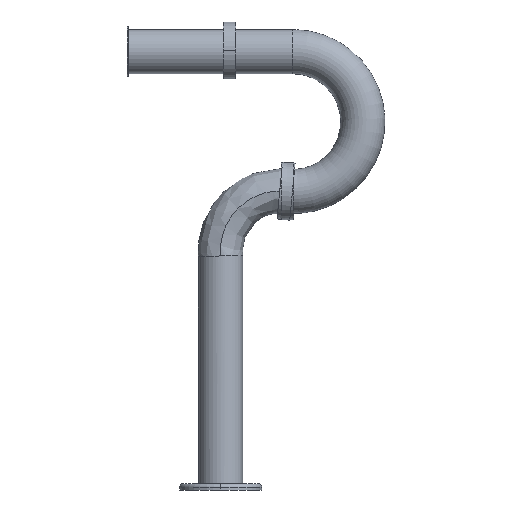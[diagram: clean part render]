
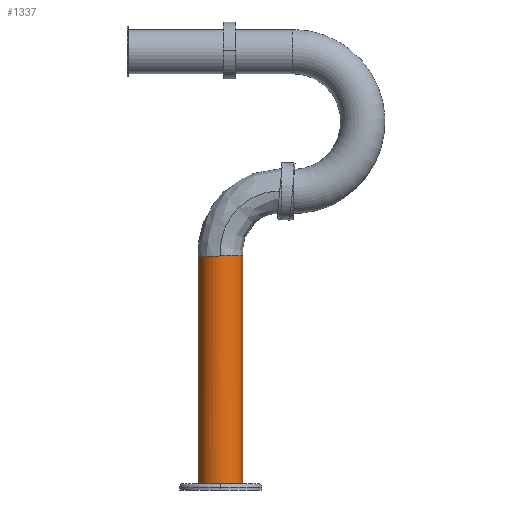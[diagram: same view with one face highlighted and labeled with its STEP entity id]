
A CAD part, left-side view. The second image highlights one B-rep face of the part: STEP entity #1337.
In plain terms, the highlighted cylindrical face has radius 17.5 mm (diameter 35 mm), a partial arc.
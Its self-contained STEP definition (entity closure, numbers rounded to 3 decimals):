
#6 = EDGE_CURVE ( 'NONE', #1256, #1238, #503, .T. ) ;
#57 = CARTESIAN_POINT ( 'NONE',  ( 0., 17.5, 89.319 ) ) ;
#63 = DIRECTION ( 'NONE',  ( 0., 0., 1. ) ) ;
#66 = FACE_OUTER_BOUND ( 'NONE', #215, .T. ) ;
#72 = CARTESIAN_POINT ( 'NONE',  ( -17.5, -1.155, 90.049 ) ) ;
#79 = CARTESIAN_POINT ( 'NONE',  ( -3.975, -17.052, 90.72 ) ) ;
#136 = B_SPLINE_CURVE_WITH_KNOTS ( 'NONE', 3,
 ( #1429, #1557, #1440, #79, #1568, #1578, #324, #1710, #462, #601, #1688, #738, #478, #883, #1700, #1044, #1562, #903, #336, #745, #898, #1300, #1282, #72, #631 ),
 .UNSPECIFIED., .F., .F.,
 ( 4, 2, 2, 1, 2, 2, 2, 2, 2, 2, 2, 2, 4 ),
 ( 0.028, 0.031, 0.033, 0.035, 0.036, 0.038, 0.041, 0.043, 0.045, 0.048, 0.05, 0.052, 0.055 ),
 .UNSPECIFIED. ) ;
#215 = EDGE_LOOP ( 'NONE', ( #1497, #752, #1113, #217, #1159 ) ) ;
#217 = ORIENTED_EDGE ( 'NONE', *, *, #386, .T. ) ;
#266 = LINE ( 'NONE', #1083, #1445 ) ;
#324 = CARTESIAN_POINT ( 'NONE',  ( -6.707, -16.194, 90.684 ) ) ;
#336 = CARTESIAN_POINT ( 'NONE',  ( -16.386, -6.17, 90.261 ) ) ;
#385 = CARTESIAN_POINT ( 'NONE',  ( -16.915, 4.525, 89.813 ) ) ;
#386 = EDGE_CURVE ( 'NONE', #616, #1238, #136, .T. ) ;
#462 = CARTESIAN_POINT ( 'NONE',  ( -8.751, -15.166, 90.64 ) ) ;
#478 = CARTESIAN_POINT ( 'NONE',  ( -12.776, -11.973, 90.506 ) ) ;
#500 = CARTESIAN_POINT ( 'NONE',  ( -17.053, 3.971, 89.836 ) ) ;
#503 = B_SPLINE_CURVE_WITH_KNOTS ( 'NONE', 3,
 ( #1198, #518, #935, #808, #641, #1338, #1616, #513, #1065, #1606, #793, #1192, #1351, #1745, #1597, #929, #1328, #1333, #1060, #1206, #385, #500, #1734, #1728, #784 ),
 .UNSPECIFIED., .F., .F.,
 ( 4, 2, 2, 1, 2, 2, 2, 2, 2, 2, 2, 2, 4 ),
 ( 0.028, 0.031, 0.033, 0.035, 0.036, 0.038, 0.041, 0.043, 0.045, 0.048, 0.05, 0.052, 0.055 ),
 .UNSPECIFIED. ) ;
#513 = CARTESIAN_POINT ( 'NONE',  ( -7.739, 15.706, 89.384 ) ) ;
#518 = CARTESIAN_POINT ( 'NONE',  ( -1.142, 17.5, 89.319 ) ) ;
#552 = EDGE_CURVE ( 'NONE', #1199, #1256, #266, .T. ) ;
#554 = AXIS2_PLACEMENT_3D ( 'NONE', #1717, #1169, #605 ) ;
#601 = CARTESIAN_POINT ( 'NONE',  ( -9.249, -14.867, 90.628 ) ) ;
#605 = DIRECTION ( 'NONE',  ( 0., -1., 0. ) ) ;
#616 = VERTEX_POINT ( 'NONE', #1247 ) ;
#631 = CARTESIAN_POINT ( 'NONE',  ( -17.5, 0., 90. ) ) ;
#641 = CARTESIAN_POINT ( 'NONE',  ( -4.536, 16.912, 89.34 ) ) ;
#647 = CARTESIAN_POINT ( 'NONE',  ( 0., 0., -90. ) ) ;
#674 = VECTOR ( 'NONE', #63, 1000. ) ;
#728 = CARTESIAN_POINT ( 'NONE',  ( -17.5, 0., 90. ) ) ;
#738 = CARTESIAN_POINT ( 'NONE',  ( -11.564, -13.184, 90.557 ) ) ;
#745 = CARTESIAN_POINT ( 'NONE',  ( -16.582, -5.624, 90.238 ) ) ;
#752 = ORIENTED_EDGE ( 'NONE', *, *, #1546, .T. ) ;
#784 = CARTESIAN_POINT ( 'NONE',  ( -17.5, 0., 90. ) ) ;
#793 = CARTESIAN_POINT ( 'NONE',  ( -10.683, 13.909, 89.45 ) ) ;
#808 = CARTESIAN_POINT ( 'NONE',  ( -3.975, 17.052, 89.335 ) ) ;
#883 = CARTESIAN_POINT ( 'NONE',  ( -13.162, -11.548, 90.488 ) ) ;
#898 = CARTESIAN_POINT ( 'NONE',  ( -16.915, -4.525, 90.191 ) ) ;
#903 = CARTESIAN_POINT ( 'NONE',  ( -15.727, -7.761, 90.328 ) ) ;
#912 = CARTESIAN_POINT ( 'NONE',  ( 0., -17.5, -90. ) ) ;
#929 = CARTESIAN_POINT ( 'NONE',  ( -14.237, 10.192, 89.591 ) ) ;
#935 = CARTESIAN_POINT ( 'NONE',  ( -2.278, 17.389, 89.323 ) ) ;
#1044 = CARTESIAN_POINT ( 'NONE',  ( -14.237, -10.192, 90.43 ) ) ;
#1060 = CARTESIAN_POINT ( 'NONE',  ( -16.386, 6.17, 89.747 ) ) ;
#1065 = CARTESIAN_POINT ( 'NONE',  ( -8.751, 15.166, 89.404 ) ) ;
#1083 = CARTESIAN_POINT ( 'NONE',  ( 0., 17.5, -90. ) ) ;
#1113 = ORIENTED_EDGE ( 'NONE', *, *, #1473, .T. ) ;
#1159 = ORIENTED_EDGE ( 'NONE', *, *, #6, .F. ) ;
#1169 = DIRECTION ( 'NONE',  ( 0., 0., 1. ) ) ;
#1192 = CARTESIAN_POINT ( 'NONE',  ( -11.564, 13.184, 89.477 ) ) ;
#1196 = DIRECTION ( 'NONE',  ( 1., 0., 0. ) ) ;
#1198 = CARTESIAN_POINT ( 'NONE',  ( 0., 17.5, 89.319 ) ) ;
#1199 = VERTEX_POINT ( 'NONE', #1394 ) ;
#1206 = CARTESIAN_POINT ( 'NONE',  ( -16.582, 5.624, 89.769 ) ) ;
#1238 = VERTEX_POINT ( 'NONE', #728 ) ;
#1247 = CARTESIAN_POINT ( 'NONE',  ( 0., -17.5, 90.739 ) ) ;
#1256 = VERTEX_POINT ( 'NONE', #57 ) ;
#1282 = CARTESIAN_POINT ( 'NONE',  ( -17.386, -2.294, 90.097 ) ) ;
#1300 = CARTESIAN_POINT ( 'NONE',  ( -17.053, -3.971, 90.168 ) ) ;
#1328 = CARTESIAN_POINT ( 'NONE',  ( -15.189, 8.766, 89.645 ) ) ;
#1333 = CARTESIAN_POINT ( 'NONE',  ( -15.727, 7.761, 89.684 ) ) ;
#1337 = ADVANCED_FACE ( 'NONE', ( #66 ), #1435, .T. ) ;
#1338 = CARTESIAN_POINT ( 'NONE',  ( -5.632, 16.579, 89.352 ) ) ;
#1351 = CARTESIAN_POINT ( 'NONE',  ( -12.776, 11.973, 89.523 ) ) ;
#1394 = CARTESIAN_POINT ( 'NONE',  ( 0., 17.5, -90. ) ) ;
#1429 = CARTESIAN_POINT ( 'NONE',  ( 0., -17.5, 90.739 ) ) ;
#1435 = CYLINDRICAL_SURFACE ( 'NONE', #554, 17.5 ) ;
#1440 = CARTESIAN_POINT ( 'NONE',  ( -2.278, -17.389, 90.734 ) ) ;
#1445 = VECTOR ( 'NONE', #1632, 1000. ) ;
#1450 = CARTESIAN_POINT ( 'NONE',  ( 0., -17.5, -90. ) ) ;
#1473 = EDGE_CURVE ( 'NONE', #1474, #616, #1518, .T. ) ;
#1474 = VERTEX_POINT ( 'NONE', #912 ) ;
#1497 = ORIENTED_EDGE ( 'NONE', *, *, #552, .F. ) ;
#1518 = LINE ( 'NONE', #1450, #674 ) ;
#1546 = EDGE_CURVE ( 'NONE', #1199, #1474, #1608, .T. ) ;
#1557 = CARTESIAN_POINT ( 'NONE',  ( -1.142, -17.5, 90.739 ) ) ;
#1562 = CARTESIAN_POINT ( 'NONE',  ( -15.189, -8.766, 90.37 ) ) ;
#1568 = CARTESIAN_POINT ( 'NONE',  ( -4.536, -16.911, 90.714 ) ) ;
#1578 = CARTESIAN_POINT ( 'NONE',  ( -5.632, -16.579, 90.7 ) ) ;
#1588 = AXIS2_PLACEMENT_3D ( 'NONE', #647, #1629, #1196 ) ;
#1597 = CARTESIAN_POINT ( 'NONE',  ( -13.894, 10.655, 89.573 ) ) ;
#1606 = CARTESIAN_POINT ( 'NONE',  ( -9.249, 14.868, 89.415 ) ) ;
#1608 = CIRCLE ( 'NONE', #1588, 17.5 ) ;
#1616 = CARTESIAN_POINT ( 'NONE',  ( -6.706, 16.194, 89.366 ) ) ;
#1629 = DIRECTION ( 'NONE',  ( 0., 0., 1. ) ) ;
#1632 = DIRECTION ( 'NONE',  ( 0., 0., 1. ) ) ;
#1688 = CARTESIAN_POINT ( 'NONE',  ( -10.683, -13.908, 90.587 ) ) ;
#1700 = CARTESIAN_POINT ( 'NONE',  ( -13.895, -10.655, 90.45 ) ) ;
#1710 = CARTESIAN_POINT ( 'NONE',  ( -7.739, -15.706, 90.663 ) ) ;
#1717 = CARTESIAN_POINT ( 'NONE',  ( 0., 0., -90. ) ) ;
#1728 = CARTESIAN_POINT ( 'NONE',  ( -17.5, 1.155, 89.951 ) ) ;
#1734 = CARTESIAN_POINT ( 'NONE',  ( -17.386, 2.294, 89.904 ) ) ;
#1745 = CARTESIAN_POINT ( 'NONE',  ( -13.162, 11.548, 89.539 ) ) ;
